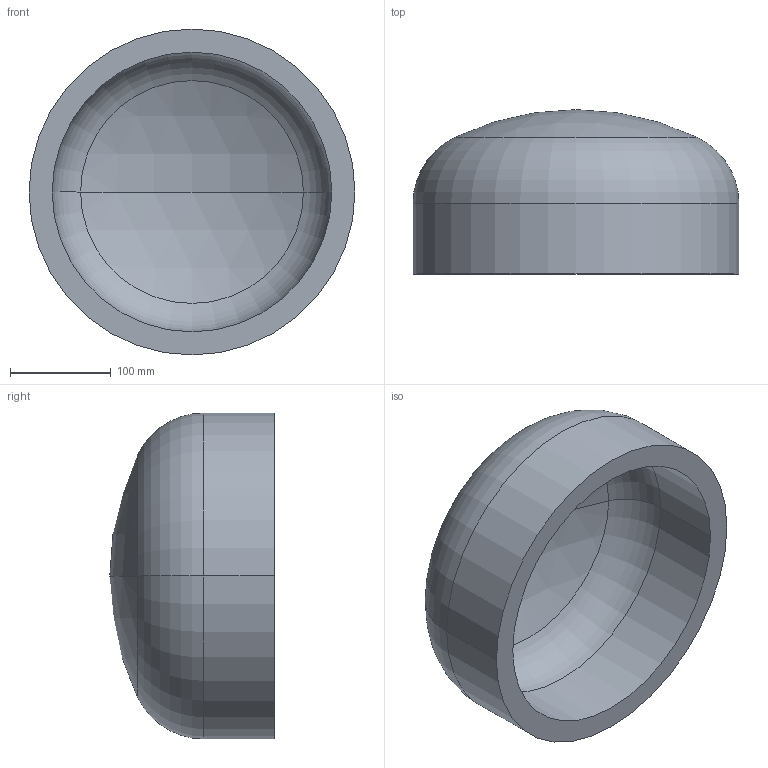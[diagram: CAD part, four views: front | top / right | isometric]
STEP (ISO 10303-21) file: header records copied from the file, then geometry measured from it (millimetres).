
FILE_DESCRIPTION (( 'STEP AP203' ), '1' );
FILE_NAME ('DIN 28013 Korbbogenform_-_Boden DIN 28013 - 323,9 x 70 - I - s=23.step', '2016-07-01T07:44:53', ( '' ), ( '' ), 'SwSTEP 2.0', 'SolidWorks 2013', '' );
FILE_SCHEMA (( 'CONFIG_CONTROL_DESIGN' ));
Length unit declared in the file: millimetre
Products named in the file (1): DIN 28013 Korbbogenform_-_Boden DIN 28013 - 323,9 x 70 - I - s=23
Bounding box: 323.9 x 163.41 x 323.9 mm (x, y, z)
Volume: 3924677.2 mm3; surface area: 364126.2 mm2
Topology: 1 solids, 1 shells, 13 faces, 24 edges, 14 vertices
Faces by surface type: torus 4, cylinder 4, sphere 4, plane 1
Entity records: 407 total; most frequent: DIRECTION 72, CARTESIAN_POINT 52, ORIENTED_EDGE 48, AXIS2_PLACEMENT_3D 34, EDGE_CURVE 24, CIRCLE 20, EDGE_LOOP 14, VERTEX_POINT 14
